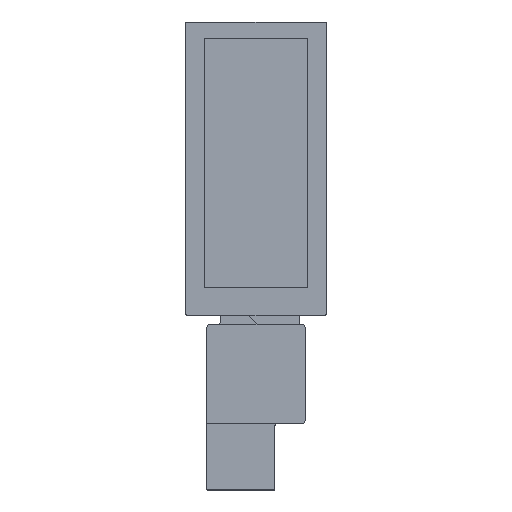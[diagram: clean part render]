
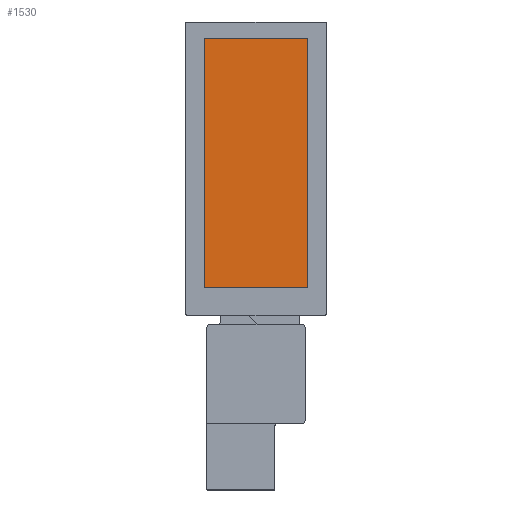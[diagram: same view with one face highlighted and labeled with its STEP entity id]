
A CAD part, top view. The second image highlights one B-rep face of the part: STEP entity #1530.
In plain terms, the highlighted planar face has unit normal (0, 0, 1).
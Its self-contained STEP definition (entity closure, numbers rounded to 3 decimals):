
#224=DIRECTION('',(-1.,0.,0.));
#225=VECTOR('',#224,38.78);
#226=CARTESIAN_POINT('',(19.39,46.816,0.698));
#227=LINE('',#226,#225);
#228=DIRECTION('',(0.,1.,0.));
#229=VECTOR('',#228,93.632);
#230=CARTESIAN_POINT('',(19.39,-46.816,0.698));
#231=LINE('',#230,#229);
#232=DIRECTION('',(1.,0.,0.));
#233=VECTOR('',#232,38.78);
#234=CARTESIAN_POINT('',(-19.39,-46.816,0.698));
#235=LINE('',#234,#233);
#236=DIRECTION('',(0.,-1.,0.));
#237=VECTOR('',#236,93.632);
#238=CARTESIAN_POINT('',(-19.39,46.816,0.698));
#239=LINE('',#238,#237);
#1152=CARTESIAN_POINT('',(19.39,46.816,0.698));
#1153=CARTESIAN_POINT('',(-19.39,46.816,0.698));
#1154=VERTEX_POINT('',#1152);
#1155=VERTEX_POINT('',#1153);
#1156=CARTESIAN_POINT('',(-19.39,-46.816,0.698));
#1157=VERTEX_POINT('',#1156);
#1158=CARTESIAN_POINT('',(19.39,-46.816,0.698));
#1159=VERTEX_POINT('',#1158);
#1519=CARTESIAN_POINT('',(0.,0.,0.695));
#1520=DIRECTION('',(0.,0.,1.));
#1521=DIRECTION('',(1.,0.,0.));
#1522=AXIS2_PLACEMENT_3D('',#1519,#1520,#1521);
#1523=PLANE('',#1522);
#1524=ORIENTED_EDGE('',*,*,#1501,.F.);
#1525=ORIENTED_EDGE('',*,*,#1507,.F.);
#1526=ORIENTED_EDGE('',*,*,#1505,.F.);
#1527=ORIENTED_EDGE('',*,*,#1503,.F.);
#1528=EDGE_LOOP('',(#1524,#1525,#1526,#1527));
#1529=FACE_OUTER_BOUND('',#1528,.F.);
#1501=EDGE_CURVE('',#1154,#1155,#227,.T.);
#1503=EDGE_CURVE('',#1155,#1157,#239,.T.);
#1505=EDGE_CURVE('',#1157,#1159,#235,.T.);
#1507=EDGE_CURVE('',#1159,#1154,#231,.T.);
#1530=ADVANCED_FACE('',(#1529),#1523,.T.);
